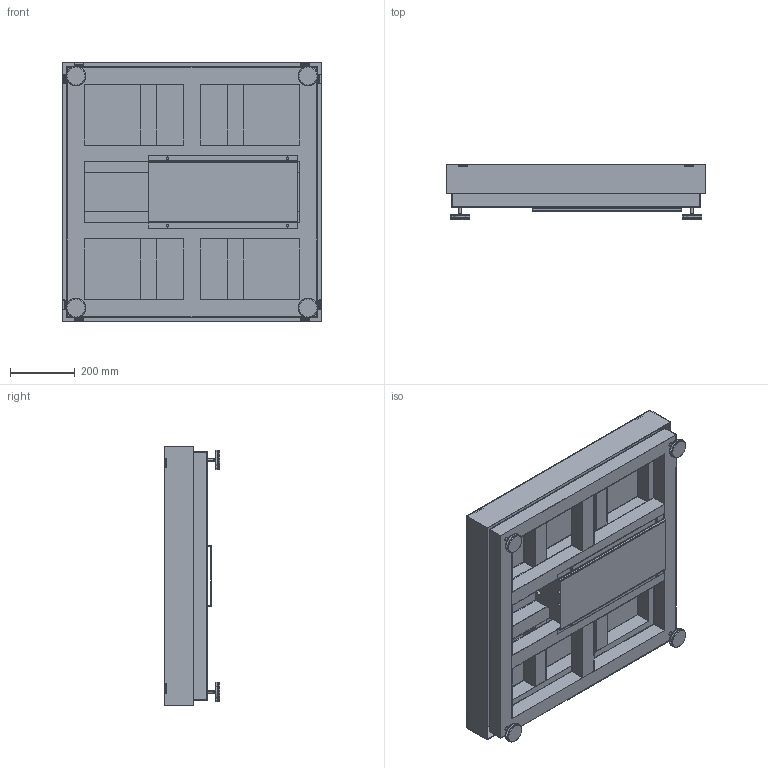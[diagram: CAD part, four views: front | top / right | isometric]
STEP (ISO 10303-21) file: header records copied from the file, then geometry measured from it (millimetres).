
FILE_DESCRIPTION((''),'1');
FILE_NAME('LELA_800x800_600_kg.step','2023-02-13T15:36:40',(''),(''),'','','');
FILE_SCHEMA(('AUTOMOTIVE_DESIGN { 1 0 10303 214 1 1 1 1 }'));
Products named in the file (17): LELA 800x800_600_kg; LELA cover 01; LELA part 02; LELA part 03; LELA part 05; LELA part 06; LELA part 07; 1; 2; LELA load cell 01; LELA part 09; LELA part 10; LELA body 01; LELA part 12; LELA part 13; LELA plate 01; LELA part 15
Assembly tree (35 placements, depth 4):
  LELA 800x800_600_kg
    LELA cover 01
    LELA part 02
      LELA part 03  x4
      LELA part 05  x12
      LELA part 06
    LELA load cell 01
      LELA part 07
        1
        2  x2
      LELA part 09
        LELA part 10  x2
      LELA body 01
    LELA part 12
      LELA part 13
      LELA plate 01
    LELA part 15  x4
Bounding box: 800 x 170 x 800 mm (x, y, z)
Volume: 6686885 mm3; surface area: 6244993.2 mm2
Topology: 30 solids, 36 shells, 3669 faces, 9059 edges, 5390 vertices
Faces by surface type: cylinder 1840, plane 1502, sphere 160, torus 80, revolution 48, cone 34, bspline 5
Entity records: 41032 total; most frequent: DIRECTION 7064, CARTESIAN_POINT 6571, ORIENTED_EDGE 5912, EDGE_CURVE 2958, AXIS2_PLACEMENT_3D 2900, VERTEX_POINT 1833, CIRCLE 1663, EDGE_LOOP 1355
